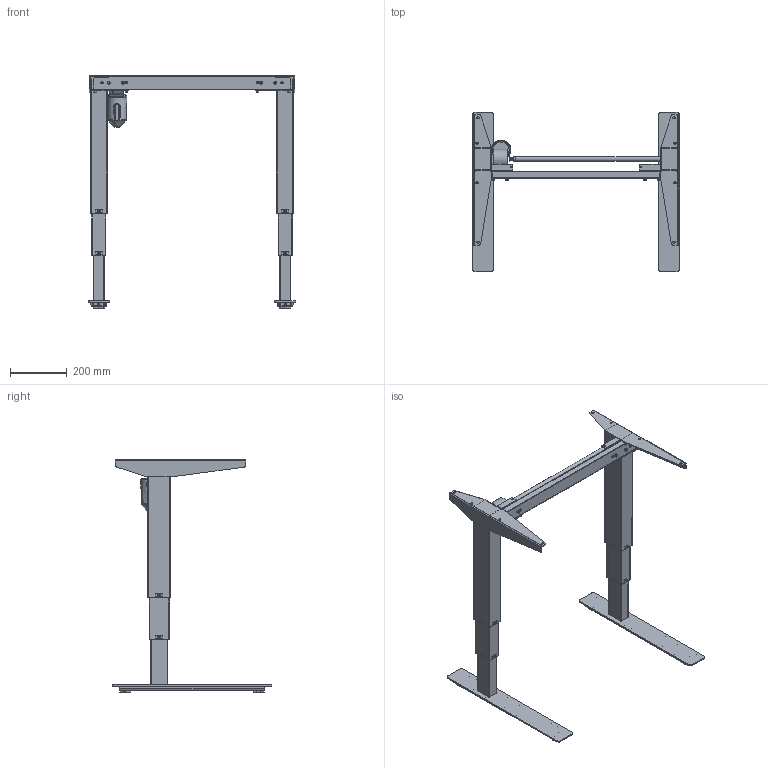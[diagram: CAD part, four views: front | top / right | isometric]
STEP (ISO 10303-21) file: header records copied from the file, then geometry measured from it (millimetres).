
FILE_DESCRIPTION (( 'STEP AP203' ), '1' );
FILE_NAME ('Tech-draw_501-37_XX072.STEP', '2019-12-17T11:00:55', ( '' ), ( '' ), 'SwSTEP 2.0', 'SolidWorks 2018', '' );
FILE_SCHEMA (( 'CONFIG_CONTROL_DESIGN' ));
Length unit declared in the file: millimetre
Products named in the file (32): 138800_black1; 344430_black; 134950_black1; 341170_shell view; 341180_shell view; 138780_black; 340560; 341150_shell view; 344080; 341120; 341140_shell view; 138790_black1; 344070_shell view; 352610; 341220; 138760_black; 348720_shell view; 138750_black; 144260_72; 340540_shell view; 134920_black1; 347910_72; Tech-draw_501-37_XX072; 341800_black; 324520_black; 148070_black1; 149010_501-37 XB072; 341130; 340760; 332570; 347920_72; 138770_black
Assembly tree (59 placements, depth 6):
  Tech-draw_501-37_XX072
    149010_501-37 XB072
      347910_72
      144260_72
        347920_72
        340560
        341220
      138760_black
        148070_black1
          341130
          341180_shell view
          348720_shell view
        138780_black
          138800_black1
            341150_shell view
            344070_shell view
            344080
          134950_black1
            341140_shell view
          341800_black  x4
        341800_black  x4
        324520_black  x2
        344430_black
        352610
      138750_black
        134920_black1
          341120
          341170_shell view
          340540_shell view
        138770_black
          138790_black1
            341150_shell view
            344070_shell view
            344080
          134950_black1
            341140_shell view
          341800_black  x4
        341800_black  x4
        324520_black  x2
      340760  x4
      332570  x4
Bounding box: 729 x 558.8 x 817 mm (x, y, z)
Volume: 2560890.5 mm3; surface area: 2242211.5 mm2
Topology: 48 solids, 48 shells, 2808 faces, 7150 edges, 4475 vertices
Faces by surface type: plane 1641, cylinder 823, bspline 224, cone 69, torus 51
Full cylindrical faces by diameter (mm): 2.8 x4, 3 x2, 4.6 x4, 5 x4, 6 x10, 7 x8, 7.6 x4, 8 x13, 10 x8, 11.9 x2, 12 x1, 13 x2, 15 x4, 16 x2, 18 x1, 20 x1, 37.6 x8, 60 x1
Entity records: 70590 total; most frequent: CARTESIAN_POINT 30171, ORIENTED_EDGE 7766, DIRECTION 7278, EDGE_CURVE 3883, AXIS2_PLACEMENT_3D 2658, VERTEX_POINT 2509, VECTOR 1962, LINE 1962
